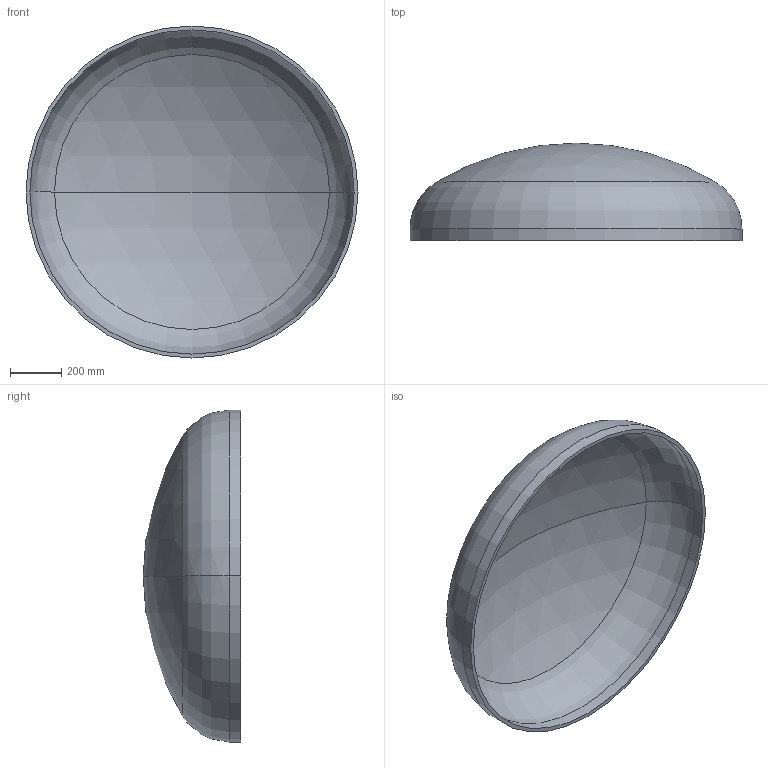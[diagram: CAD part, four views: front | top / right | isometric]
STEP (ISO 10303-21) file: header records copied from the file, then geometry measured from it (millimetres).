
FILE_DESCRIPTION (( 'STEP AP203' ), '1' );
FILE_NAME ('DIN 28013 Korbbogenform_-_Boden DIN 28013 - 1300 x 45 - I - s=15.step', '2016-07-01T09:43:59', ( '' ), ( '' ), 'SwSTEP 2.0', 'SolidWorks 2013', '' );
FILE_SCHEMA (( 'CONFIG_CONTROL_DESIGN' ));
Length unit declared in the file: millimetre
Products named in the file (1): DIN 28013 Korbbogenform_-_Boden DIN 28013 - 1300 x 45 - I - s=15
Bounding box: 1300 x 381.41 x 1300 mm (x, y, z)
Volume: 29876928.8 mm3; surface area: 4044614.5 mm2
Topology: 1 solids, 1 shells, 13 faces, 24 edges, 14 vertices
Faces by surface type: torus 4, cylinder 4, sphere 4, plane 1
Entity records: 407 total; most frequent: DIRECTION 72, CARTESIAN_POINT 52, ORIENTED_EDGE 48, AXIS2_PLACEMENT_3D 34, EDGE_CURVE 24, CIRCLE 20, EDGE_LOOP 14, VERTEX_POINT 14
